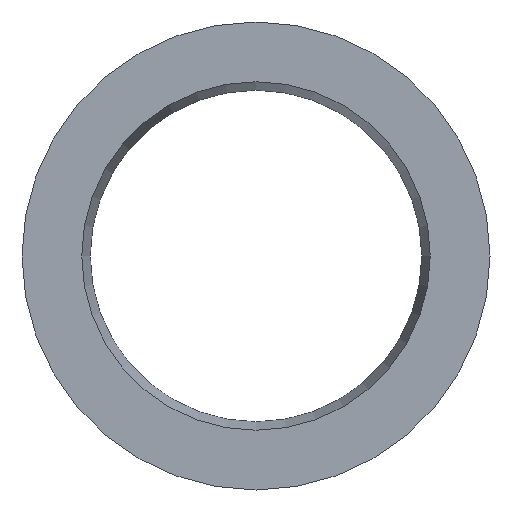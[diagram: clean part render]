
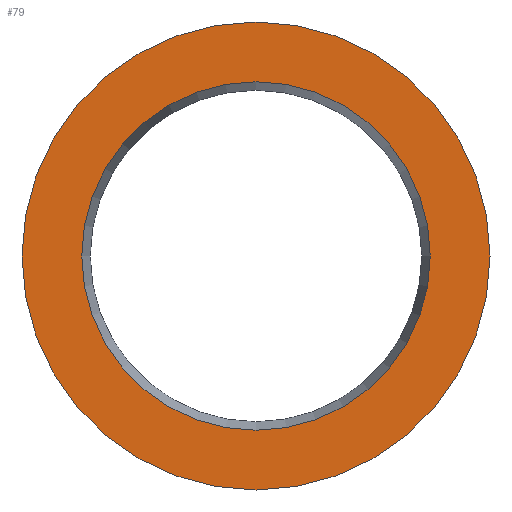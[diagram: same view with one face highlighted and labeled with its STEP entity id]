
A CAD part, front view. The second image highlights one B-rep face of the part: STEP entity #79.
In plain terms, the highlighted planar face has unit normal (0, -1, 0).
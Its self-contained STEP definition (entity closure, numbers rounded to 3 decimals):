
#79 = ADVANCED_FACE( '', ( #94, #95 ), #96, .T. );
#94 = FACE_OUTER_BOUND( '', #112, .T. );
#95 = FACE_BOUND( '', #113, .T. );
#96 = PLANE( '', #114 );
#112 = EDGE_LOOP( '', ( #138 ) );
#113 = EDGE_LOOP( '', ( #139 ) );
#114 = AXIS2_PLACEMENT_3D( '', #140, #141, #142 );
#138 = ORIENTED_EDGE( '', *, *, #153, .T. );
#139 = ORIENTED_EDGE( '', *, *, #152, .F. );
#140 = CARTESIAN_POINT( '', ( 7., 0., 0. ) );
#141 = DIRECTION( '', ( 0., -1., 0. ) );
#142 = DIRECTION( '', ( 0., 0., -1. ) );
#152 = EDGE_CURVE( '', #162, #162, #163, .T. );
#153 = EDGE_CURVE( '', #164, #164, #165, .T. );
#162 = VERTEX_POINT( '', #174 );
#163 = CIRCLE( '', #175, 7. );
#164 = VERTEX_POINT( '', #176 );
#165 = CIRCLE( '', #177, 9.4 );
#174 = CARTESIAN_POINT( '', ( 0., 0., -7. ) );
#175 = AXIS2_PLACEMENT_3D( '', #190, #191, #192 );
#176 = CARTESIAN_POINT( '', ( 0., 0., -9.4 ) );
#177 = AXIS2_PLACEMENT_3D( '', #193, #194, #195 );
#190 = CARTESIAN_POINT( '', ( 0., 0., 0. ) );
#191 = DIRECTION( '', ( 0., -1., 0. ) );
#192 = DIRECTION( '', ( 0., 0., -1. ) );
#193 = CARTESIAN_POINT( '', ( 0., 0., 0. ) );
#194 = DIRECTION( '', ( 0., -1., 0. ) );
#195 = DIRECTION( '', ( 0., 0., -1. ) );
